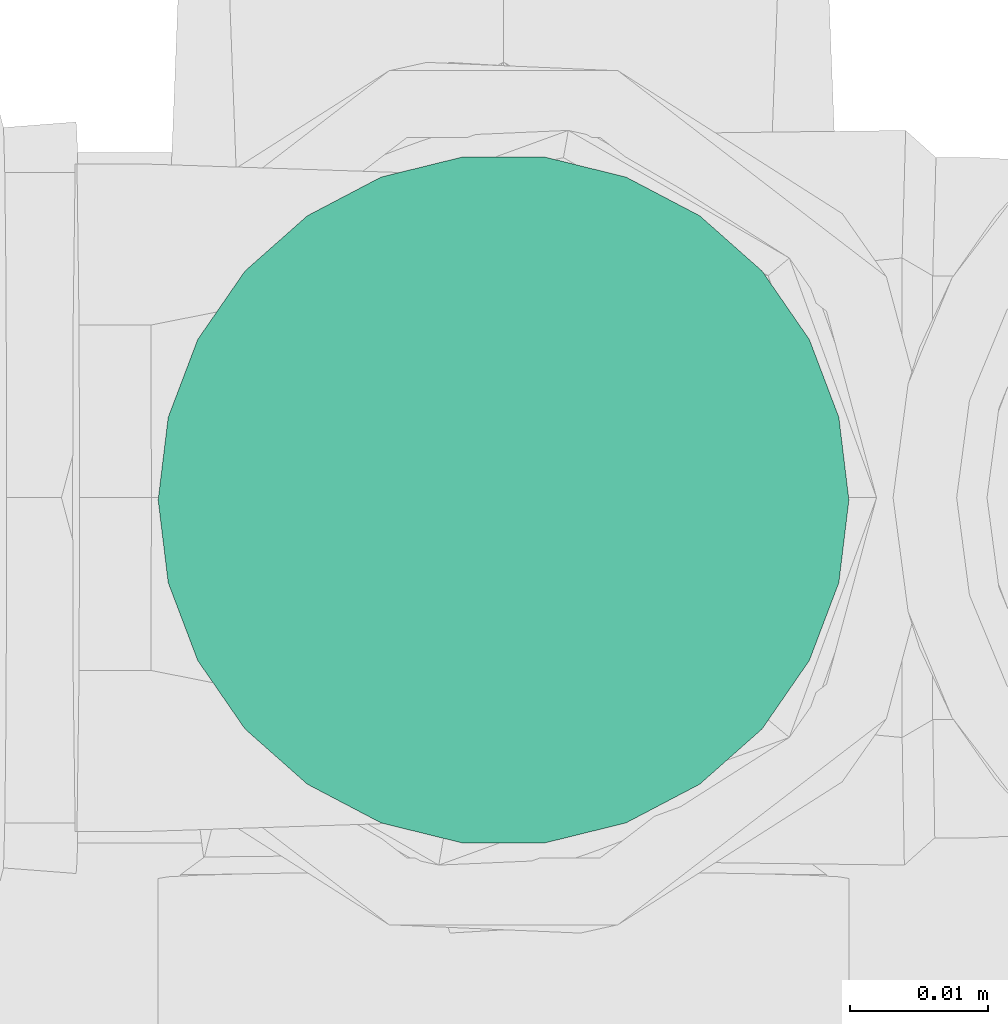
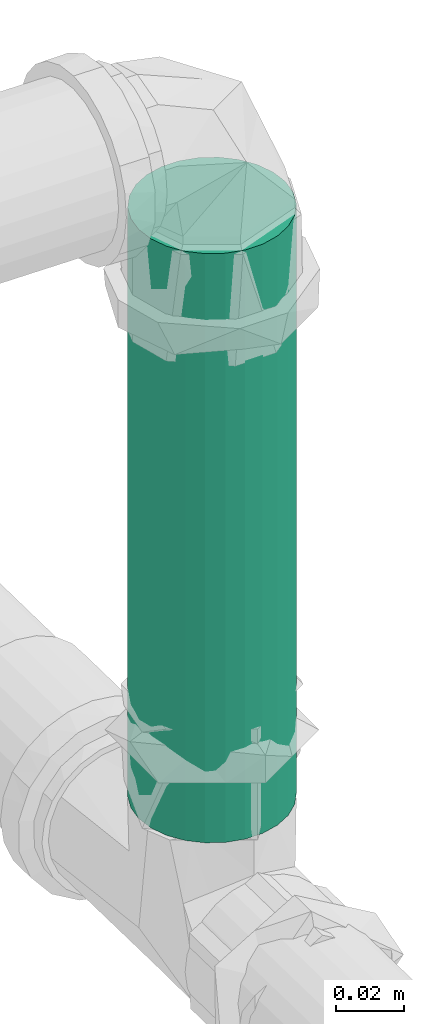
# One storey, part 116 of 589: 1 flow segment.
"""IFC2X3 building model written with IfcOpenShell, lengths in millimetres."""

from ifc_helpers import new_model, entity, si_unit, converted_unit, derived_unit, direction, frame, origin, origin_2d_with_axis, place, context, subcontext, project, spatial, circle, extrude, type_object, element, save


model = new_model("IFC2X3")

# Units and contexts
model_context = context("Model", 3, precision=0.01, world=origin(), true_north=direction((6.123031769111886e-17, 1.0)))
body_context = subcontext(model_context, "Body", "Model", "MODEL_VIEW")
ifc_project = project(units=[si_unit("LENGTHUNIT", "METRE", prefix="MILLI"), si_unit("AREAUNIT", "SQUARE_METRE"), si_unit("VOLUMEUNIT", "CUBIC_METRE"), converted_unit("PLANEANGLEUNIT", "DEGREE", entity("IfcRatioMeasure", 0.017453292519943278), si_unit("PLANEANGLEUNIT", "RADIAN"), dimensions=[0, 0, 0, 0, 0, 0, 0]), si_unit("MASSUNIT", "GRAM", prefix="KILO"), derived_unit("MASSDENSITYUNIT", [(si_unit("MASSUNIT", "GRAM", prefix="KILO"), 1), (si_unit("LENGTHUNIT", "METRE"), -3)]), derived_unit("IONCONCENTRATIONUNIT", [(si_unit("MASSUNIT", "GRAM", prefix="KILO"), 1), (si_unit("LENGTHUNIT", "METRE"), -3)]), derived_unit("MOMENTOFINERTIAUNIT", [(si_unit("LENGTHUNIT", "METRE"), 4)]), si_unit("TIMEUNIT", "SECOND"), si_unit("FREQUENCYUNIT", "HERTZ"), si_unit("THERMODYNAMICTEMPERATUREUNIT", "DEGREE_CELSIUS"), derived_unit("THERMALTRANSMITTANCEUNIT", [(si_unit("MASSUNIT", "GRAM", prefix="KILO"), 1), (si_unit("THERMODYNAMICTEMPERATUREUNIT", "KELVIN"), -1), (si_unit("TIMEUNIT", "SECOND"), -3)]), derived_unit("THERMALCONDUCTANCEUNIT", [(si_unit("MASSUNIT", "GRAM", prefix="KILO"), 1), (si_unit("THERMODYNAMICTEMPERATUREUNIT", "KELVIN"), -1), (si_unit("TIMEUNIT", "SECOND"), -3), (si_unit("LENGTHUNIT", "METRE"), 1)]), derived_unit("VOLUMETRICFLOWRATEUNIT", [(si_unit("LENGTHUNIT", "METRE"), 3), (si_unit("TIMEUNIT", "SECOND"), -1)]), derived_unit("MASSFLOWRATEUNIT", [(si_unit("MASSUNIT", "GRAM", prefix="KILO"), 1), (si_unit("TIMEUNIT", "SECOND"), -1)]), derived_unit("ROTATIONALFREQUENCYUNIT", [(si_unit("TIMEUNIT", "SECOND"), -1)]), si_unit("ELECTRICCURRENTUNIT", "AMPERE"), si_unit("ELECTRICVOLTAGEUNIT", "VOLT"), si_unit("POWERUNIT", "WATT"), si_unit("FORCEUNIT", "NEWTON", prefix="KILO"), si_unit("ILLUMINANCEUNIT", "LUX"), si_unit("LUMINOUSFLUXUNIT", "LUMEN"), si_unit("LUMINOUSINTENSITYUNIT", "CANDELA"), derived_unit("USERDEFINED", [(si_unit("MASSUNIT", "GRAM", prefix="KILO"), -1), (si_unit("LENGTHUNIT", "METRE"), -2), (si_unit("TIMEUNIT", "SECOND"), 3), (si_unit("LUMINOUSFLUXUNIT", "LUMEN"), 1)]), derived_unit("USERDEFINED", [(si_unit("MASSUNIT", "GRAM", prefix="KILO"), 1), (si_unit("TIMEUNIT", "SECOND"), -3), (si_unit("LENGTHUNIT", "METRE"), 3), (si_unit("ELECTRICCURRENTUNIT", "AMPERE"), -2)]), derived_unit("SOUNDPOWERUNIT", [(si_unit("MASSUNIT", "GRAM", prefix="KILO"), 1), (si_unit("TIMEUNIT", "SECOND"), -3), (si_unit("LENGTHUNIT", "METRE"), 2)]), derived_unit("SOUNDPRESSUREUNIT", [(si_unit("MASSUNIT", "GRAM", prefix="KILO"), 1), (si_unit("LENGTHUNIT", "METRE"), -1), (si_unit("TIMEUNIT", "SECOND"), -2)]), derived_unit("LINEARVELOCITYUNIT", [(si_unit("LENGTHUNIT", "METRE"), 1), (si_unit("TIMEUNIT", "SECOND"), -1)]), si_unit("PRESSUREUNIT", "PASCAL"), derived_unit("USERDEFINED", [(si_unit("MASSUNIT", "GRAM", prefix="KILO"), 1), (si_unit("LENGTHUNIT", "METRE"), -2), (si_unit("TIMEUNIT", "SECOND"), -2)]), derived_unit("LINEARFORCEUNIT", [(si_unit("MASSUNIT", "GRAM", prefix="KILO"), 1), (si_unit("TIMEUNIT", "SECOND"), -2)]), derived_unit("PLANARFORCEUNIT", [(si_unit("MASSUNIT", "GRAM", prefix="KILO"), 1), (si_unit("LENGTHUNIT", "METRE"), -1), (si_unit("TIMEUNIT", "SECOND"), -2)]), derived_unit("SPECIFICHEATCAPACITYUNIT", [(si_unit("THERMODYNAMICTEMPERATUREUNIT", "KELVIN"), -1), (si_unit("LENGTHUNIT", "METRE"), 2), (si_unit("TIMEUNIT", "SECOND"), -2)]), derived_unit("HEATINGVALUEUNIT", [(si_unit("LENGTHUNIT", "METRE"), 2), (si_unit("TIMEUNIT", "SECOND"), -2)]), derived_unit("VAPORPERMEABILITYUNIT", [(si_unit("LENGTHUNIT", "METRE"), -1), (si_unit("TIMEUNIT", "SECOND"), 1)]), derived_unit("DYNAMICVISCOSITYUNIT", [(si_unit("MASSUNIT", "GRAM", prefix="KILO"), 1), (si_unit("TIMEUNIT", "SECOND"), -1), (si_unit("LENGTHUNIT", "METRE"), -1)]), derived_unit("THERMALEXPANSIONCOEFFICIENTUNIT", [(si_unit("THERMODYNAMICTEMPERATUREUNIT", "KELVIN"), -1)]), derived_unit("MODULUSOFELASTICITYUNIT", [(si_unit("MASSUNIT", "GRAM", prefix="KILO"), 1), (si_unit("LENGTHUNIT", "METRE"), -1), (si_unit("TIMEUNIT", "SECOND"), -2)]), derived_unit("ISOTHERMALMOISTURECAPACITYUNIT", [(si_unit("LENGTHUNIT", "METRE"), 3), (si_unit("MASSUNIT", "GRAM", prefix="KILO"), -1)]), derived_unit("MOISTUREDIFFUSIVITYUNIT", [(si_unit("TIMEUNIT", "SECOND"), -1), (si_unit("LENGTHUNIT", "METRE"), 2)])], contexts=[model_context])

# Site, building, storey
site_placement = place(None, origin())
site = spatial("IfcSite", under=ifc_project, at=site_placement, Name="Default", CompositionType="ELEMENT")
building_placement = place(site_placement, origin())
building = spatial("IfcBuilding", under=site, at=building_placement, CompositionType="ELEMENT")
storey_placement = place(building_placement, frame((0.0, 0.0, 100.0)))
storey = spatial("IfcBuildingStorey", under=building, at=storey_placement, Name="TÉRREO", CompositionType="ELEMENT", Elevation=100.0)

# Flow segment
pipe_segment_type = type_object("IfcPipeSegmentType", Name="Tipos de tubos:PVC Esgoto Série Normal", PredefinedType="NOTDEFINED")
flow_segment_placement = place(storey_placement, origin())
element("IfcFlowSegment", 1, at=flow_segment_placement, inside=storey, type_object=pipe_segment_type, Name="Tipos de tubos:PVC Esgoto Série Normal", ObjectType="Tipos de tubos:PVC Esgoto Série Normal", context=body_context, shape_type="SweptSolid", body=[
    extrude(circle(Radius=25.0, at=origin_2d_with_axis()), frame((4920.934778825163, -509.33158624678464, -163.86619125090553), z_axis=(0.0, 0.0, 1.0), x_axis=(-1.0, 0.0, 0.0)), (0.0, 0.0, 1.0), 212.92489128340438),
])

save(model, "model.ifc")
